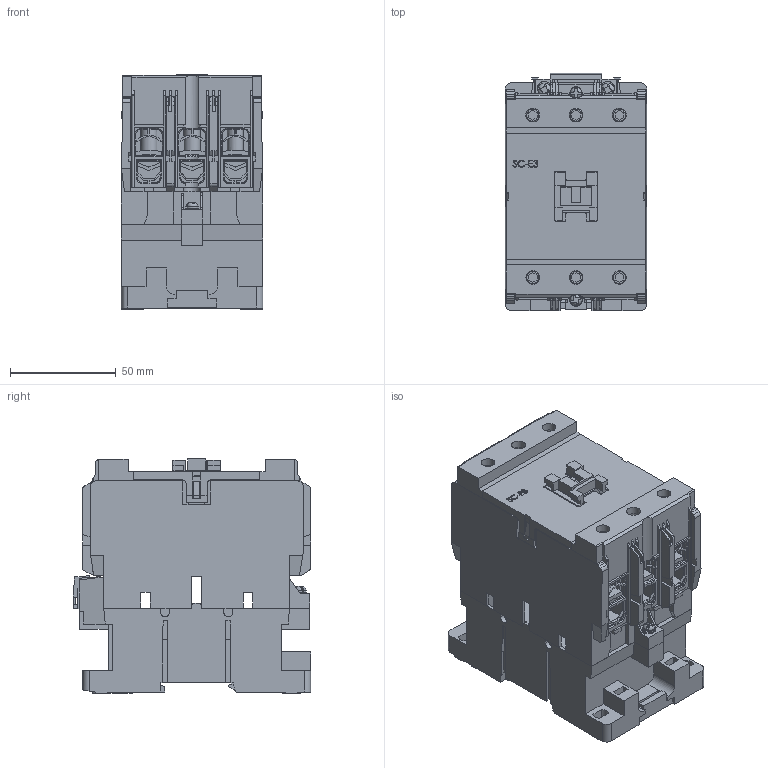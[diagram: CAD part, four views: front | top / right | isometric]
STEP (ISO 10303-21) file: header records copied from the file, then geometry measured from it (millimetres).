
FILE_DESCRIPTION (( 'STEP AP214' ), '1' );
FILE_NAME ('SC-E3.STEP', '2016-01-19T08:40:49', ( '川崎工場' ), ( '富士電機株式会社' ), 'SwSTEP 2.0', 'SolidWorks 2015', '' );
FILE_SCHEMA (( 'AUTOMOTIVE_DESIGN' ));
Length unit declared in the file: millimetre
Products named in the file (21): Washer_M3; SC-E3; Springwasher_M3; Screw_M3_L17; SC-E3_Coil_Terminal_Cover; SC-E3_Hexagon socket screw keys_M4_asm; SC-E3_Hexagon socket screw keys_M4; SC-E3_Teminal plate; SC-E3_Swith; SC-E3_Plate; SC-E3_Terminal_Cover; SC-E3_Cover1; SC-E3_Upper Case; SC-E3 Lower Case Asm^SC-E3; SC-E3_DIN rail contact portions; Copy of Screw_M3P5_L7^SC-E3 Lower Case Asm_SC-E3; Screw_M3.5_L7; Springwasher_M3P5; Plate_M3P5_7P7; SC-E3_Lower Case; Screw_M3_L17^SC-E3
Assembly tree (33 placements, depth 4):
  SC-E3
    SC-E3 Lower Case Asm^SC-E3
      SC-E3_Lower Case
      Copy of Screw_M3P5_L7^SC-E3 Lower Case Asm_SC-E3  x2
        Plate_M3P5_7P7
        Springwasher_M3P5
        Screw_M3.5_L7
      SC-E3_DIN rail contact portions
    SC-E3_Upper Case
    SC-E3_Cover1
    SC-E3_Terminal_Cover  x2
    SC-E3_Plate  x6
    SC-E3_Swith
    SC-E3_Hexagon socket screw keys_M4_asm  x6
      SC-E3_Teminal plate
      SC-E3_Hexagon socket screw keys_M4
    SC-E3_Coil_Terminal_Cover
    Screw_M3_L17^SC-E3  x2
      Screw_M3_L17
      Springwasher_M3
      Washer_M3
Bounding box: 67 x 112.4 x 111 mm (x, y, z)
Volume: 330809.5 mm3; surface area: 185415.3 mm2
Topology: 38 solids, 38 shells, 2608 faces, 7479 edges, 4937 vertices
Faces by surface type: plane 2159, cylinder 353, cone 54, bspline 38, torus 4
Full cylindrical faces by diameter (mm): 3 x4, 3.2 x2, 3.5 x6, 4 x2, 4.5 x1, 6 x8, 6.5 x6, 6.8 x2, 7.7 x12, 8 x1, 8.5 x6, 9.3 x1, 9.7 x6
Entity records: 61102 total; most frequent: CARTESIAN_POINT 13148, ORIENTED_EDGE 10270, DIRECTION 8986, EDGE_CURVE 5135, VECTOR 4480, LINE 4480, VERTEX_POINT 3413, AXIS2_PLACEMENT_3D 2253
